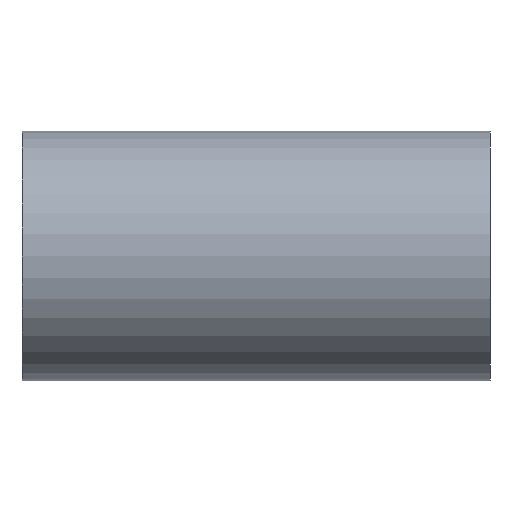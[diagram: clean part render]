
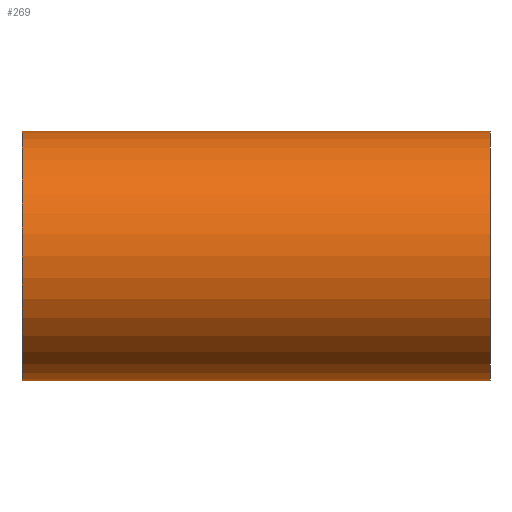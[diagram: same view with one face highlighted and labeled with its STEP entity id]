
A CAD part, left-side view. The second image highlights one B-rep face of the part: STEP entity #269.
In plain terms, the highlighted cylindrical face has radius 44.5 mm (diameter 89 mm), a full revolution.
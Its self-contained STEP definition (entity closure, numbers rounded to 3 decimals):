
#17=ELLIPSE('',#300,62.933,44.5);
#18=ELLIPSE('',#301,62.933,44.5);
#25=FACE_BOUND('',#92,.T.);
#26=FACE_BOUND('',#93,.T.);
#37=CYLINDRICAL_SURFACE('',#298,44.5);
#66=FACE_OUTER_BOUND('',#91,.T.);
#91=EDGE_LOOP('',(#230));
#92=EDGE_LOOP('',(#231,#232));
#93=EDGE_LOOP('',(#233));
#116=CIRCLE('',#299,44.5);
#117=CIRCLE('',#302,44.5);
#150=VERTEX_POINT('',#5226);
#151=VERTEX_POINT('',#5228);
#152=VERTEX_POINT('',#5229);
#153=VERTEX_POINT('',#5232);
#182=EDGE_CURVE('',#150,#150,#116,.T.);
#183=EDGE_CURVE('',#151,#152,#17,.T.);
#184=EDGE_CURVE('',#152,#151,#18,.T.);
#185=EDGE_CURVE('',#153,#153,#117,.T.);
#230=ORIENTED_EDGE('',*,*,#182,.F.);
#231=ORIENTED_EDGE('',*,*,#183,.T.);
#232=ORIENTED_EDGE('',*,*,#184,.T.);
#233=ORIENTED_EDGE('',*,*,#185,.F.);
#269=ADVANCED_FACE('',(#66,#25,#26),#37,.T.);
#298=AXIS2_PLACEMENT_3D('',#5225,#356,#357);
#299=AXIS2_PLACEMENT_3D('',#5227,#358,#359);
#300=AXIS2_PLACEMENT_3D('',#5230,#360,#361);
#301=AXIS2_PLACEMENT_3D('',#5231,#362,#363);
#302=AXIS2_PLACEMENT_3D('',#5233,#364,#365);
#356=DIRECTION('center_axis',(0.,1.,0.));
#357=DIRECTION('ref_axis',(1.,0.,0.));
#358=DIRECTION('center_axis',(0.,-1.,0.));
#359=DIRECTION('ref_axis',(1.,0.,0.));
#360=DIRECTION('center_axis',(-0.707,-0.707,0.));
#361=DIRECTION('ref_axis',(0.707,-0.707,0.));
#362=DIRECTION('center_axis',(-0.707,0.707,0.));
#363=DIRECTION('ref_axis',(-0.707,-0.707,0.));
#364=DIRECTION('center_axis',(0.,1.,0.));
#365=DIRECTION('ref_axis',(1.,0.,0.));
#5225=CARTESIAN_POINT('Origin',(0.,0.,0.));
#5226=CARTESIAN_POINT('',(-44.5,-83.5,0.));
#5227=CARTESIAN_POINT('Origin',(0.,-83.5,0.));
#5228=CARTESIAN_POINT('',(0.,0.,-44.5));
#5229=CARTESIAN_POINT('',(0.,0.,44.5));
#5230=CARTESIAN_POINT('Origin',(0.,0.,0.));
#5231=CARTESIAN_POINT('Origin',(0.,0.,0.));
#5232=CARTESIAN_POINT('',(-44.5,83.5,0.));
#5233=CARTESIAN_POINT('Origin',(0.,83.5,0.));
